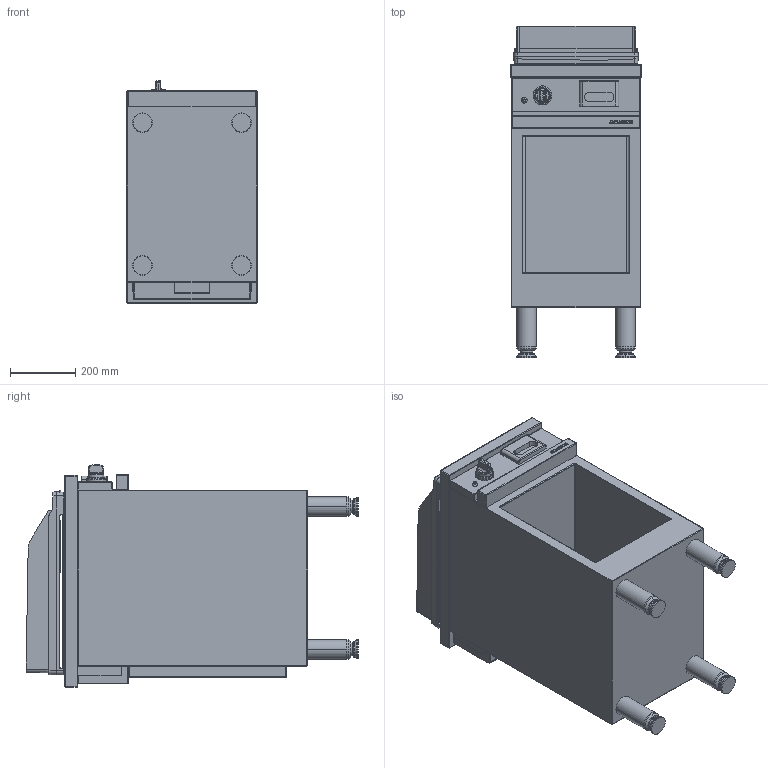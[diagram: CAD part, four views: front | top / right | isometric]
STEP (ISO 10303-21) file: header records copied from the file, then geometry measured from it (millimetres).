
FILE_DESCRIPTION((''),'2;1');
FILE_NAME('CMG410GR_EXPORT_STEP_ASM','2017-11-22T',('r.avril'),(''),'PRO/ENGINEER BY PARAMETRIC TECHNOLOGY CORPORATION, 2014200','PRO/ENGINEER BY PARAMETRIC TECHNOLOGY CORPORATION, 2014200','');
FILE_SCHEMA(('AP203_CONFIGURATION_CONTROLLED_3D_DESIGN_OF_MECHANICAL_PARTS_AND_ASSEMBLIES_MIM_LF { 1 0 10303 403 2 1 2 }'));
Products named in the file (10): MODULES_AMB_400_EXPORT_STEP; TABLE_410_GRILLADE; TABLE_410_GRILLADE_ASM; ALLUMEUR_EXPORT_STEP; TIROIR_GRILLADE_EXPORT_STEP; MANETTE_AMB_EXPORT_STEP; 65062006; 50288400; 90000920_ASM; CMG410GR_EXPORT_STEP_ASM
Assembly tree (9 placements, depth 3):
  CMG410GR_EXPORT_STEP_ASM
    MODULES_AMB_400_EXPORT_STEP
    TABLE_410_GRILLADE_ASM
      TABLE_410_GRILLADE
    ALLUMEUR_EXPORT_STEP
    TIROIR_GRILLADE_EXPORT_STEP
    MANETTE_AMB_EXPORT_STEP
    90000920_ASM
      65062006
      50288400
Bounding box: 400 x 1019.04 x 682.5 mm (x, y, z)
Volume: 59918918 mm3; surface area: 5013533.3 mm2
Topology: 14 solids, 46 shells, 1902 faces, 4810 edges, 3245 vertices
Faces by surface type: cylinder 592, bspline 418, plane 394, torus 292, sphere 104, cone 102
Entity records: 89708 total; most frequent: CARTESIAN_POINT 31986, DIRECTION 8708, ORIENTED_EDGE 8623, EDGE_CURVE 4562, PRESENTATION_STYLE_ASSIGNMENT 3783, STYLED_ITEM 3783, CURVE_STYLE 3590, AXIS2_PLACEMENT_3D 3484
